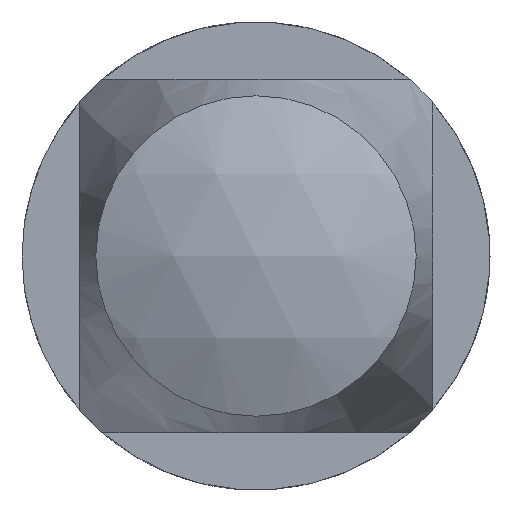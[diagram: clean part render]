
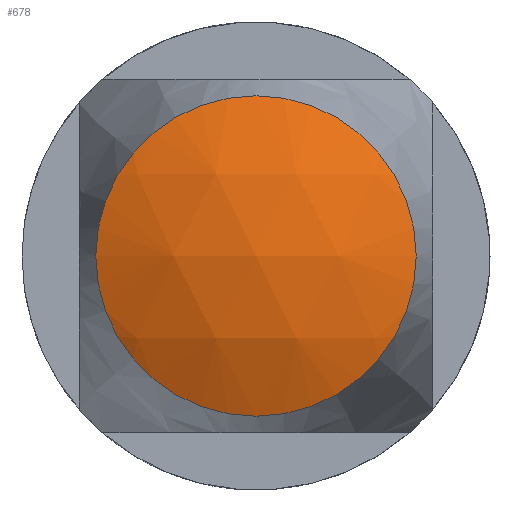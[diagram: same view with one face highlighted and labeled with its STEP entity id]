
A CAD part, front view. The second image highlights one B-rep face of the part: STEP entity #678.
In plain terms, the highlighted spherical face has radius 8.8 mm.
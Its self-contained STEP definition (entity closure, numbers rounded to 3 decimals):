
#19=SPHERICAL_SURFACE('',#745,8.8);
#237=FACE_OUTER_BOUND('',#295,.T.);
#295=EDGE_LOOP('',(#604));
#320=CIRCLE('',#746,4.074);
#382=VERTEX_POINT('',#1336);
#462=EDGE_CURVE('',#382,#382,#320,.T.);
#604=ORIENTED_EDGE('',*,*,#462,.F.);
#678=ADVANCED_FACE('',(#237),#19,.T.);
#745=AXIS2_PLACEMENT_3D('',#1335,#922,#923);
#746=AXIS2_PLACEMENT_3D('',#1337,#924,#925);
#922=DIRECTION('center_axis',(0.,0.,1.));
#923=DIRECTION('ref_axis',(1.,0.,0.));
#924=DIRECTION('center_axis',(0.,1.,0.));
#925=DIRECTION('ref_axis',(-1.,0.,0.));
#1335=CARTESIAN_POINT('Origin',(0.,-27.3,
0.));
#1336=CARTESIAN_POINT('',(-4.074,-35.1,0.));
#1337=CARTESIAN_POINT('Origin',(0.,-35.1,0.));
